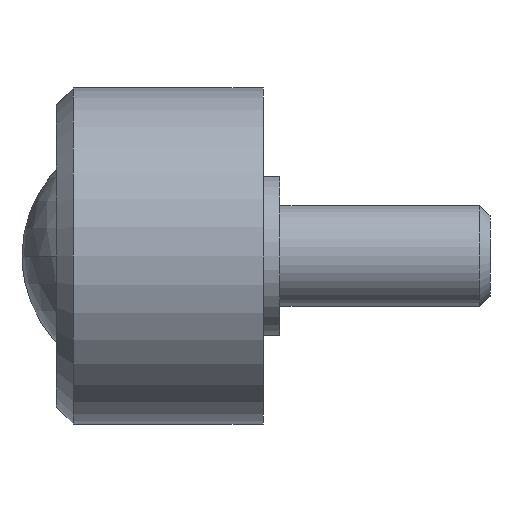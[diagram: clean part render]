
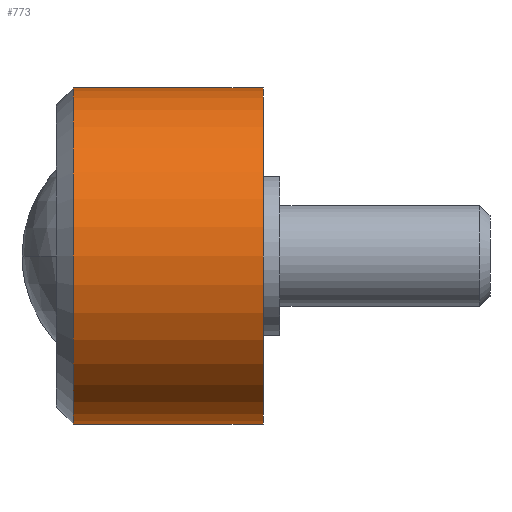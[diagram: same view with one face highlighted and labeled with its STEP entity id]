
A CAD part, left-side view. The second image highlights one B-rep face of the part: STEP entity #773.
In plain terms, the highlighted cylindrical face has radius 20 mm (diameter 40 mm), a partial arc.
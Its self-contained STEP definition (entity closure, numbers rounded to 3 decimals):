
#18 = CARTESIAN_POINT ( 'NONE',  ( 0., 22.6, 20. ) ) ;
#49 = CARTESIAN_POINT ( 'NONE',  ( 0., 0., 20. ) ) ;
#100 = CARTESIAN_POINT ( 'NONE',  ( 0., 0., 20. ) ) ;
#121 = CARTESIAN_POINT ( 'NONE',  ( 0., 22.6, -20. ) ) ;
#132 = EDGE_CURVE ( 'NONE', #546, #309, #749, .T. ) ;
#146 = ORIENTED_EDGE ( 'NONE', *, *, #690, .T. ) ;
#161 = CARTESIAN_POINT ( 'NONE',  ( 0., 22.6, 0. ) ) ;
#184 = VERTEX_POINT ( 'NONE', #121 ) ;
#187 = CARTESIAN_POINT ( 'NONE',  ( 0., 0., -20. ) ) ;
#189 = AXIS2_PLACEMENT_3D ( 'NONE', #655, #730, #308 ) ;
#208 = EDGE_CURVE ( 'NONE', #184, #309, #304, .T. ) ;
#227 = DIRECTION ( 'NONE',  ( 0., -1., 0. ) ) ;
#262 = VERTEX_POINT ( 'NONE', #18 ) ;
#272 = ORIENTED_EDGE ( 'NONE', *, *, #505, .F. ) ;
#292 = CYLINDRICAL_SURFACE ( 'NONE', #626, 20. ) ;
#304 = LINE ( 'NONE', #187, #558 ) ;
#305 = ORIENTED_EDGE ( 'NONE', *, *, #132, .F. ) ;
#308 = DIRECTION ( 'NONE',  ( 0., 0., -1. ) ) ;
#309 = VERTEX_POINT ( 'NONE', #687 ) ;
#357 = DIRECTION ( 'NONE',  ( 0., 0., -1. ) ) ;
#373 = EDGE_LOOP ( 'NONE', ( #272, #146, #554, #305 ) ) ;
#504 = DIRECTION ( 'NONE',  ( 0., 0., 1. ) ) ;
#505 = EDGE_CURVE ( 'NONE', #262, #546, #518, .T. ) ;
#518 = LINE ( 'NONE', #100, #625 ) ;
#528 = DIRECTION ( 'NONE',  ( 0., -1., 0. ) ) ;
#546 = VERTEX_POINT ( 'NONE', #49 ) ;
#554 = ORIENTED_EDGE ( 'NONE', *, *, #208, .T. ) ;
#558 = VECTOR ( 'NONE', #721, 1000. ) ;
#568 = DIRECTION ( 'NONE',  ( 0., -1., 0. ) ) ;
#625 = VECTOR ( 'NONE', #227, 1000. ) ;
#626 = AXIS2_PLACEMENT_3D ( 'NONE', #733, #528, #357 ) ;
#655 = CARTESIAN_POINT ( 'NONE',  ( 0., 0., 0. ) ) ;
#687 = CARTESIAN_POINT ( 'NONE',  ( 0., 0., -20. ) ) ;
#690 = EDGE_CURVE ( 'NONE', #262, #184, #710, .T. ) ;
#710 = CIRCLE ( 'NONE', #722, 20. ) ;
#721 = DIRECTION ( 'NONE',  ( 0., -1., 0. ) ) ;
#722 = AXIS2_PLACEMENT_3D ( 'NONE', #161, #568, #504 ) ;
#730 = DIRECTION ( 'NONE',  ( 0., -1., 0. ) ) ;
#733 = CARTESIAN_POINT ( 'NONE',  ( 0., 0., 0. ) ) ;
#749 = CIRCLE ( 'NONE', #189, 20. ) ;
#773 = ADVANCED_FACE ( 'NONE', ( #779 ), #292, .T. ) ;
#779 = FACE_OUTER_BOUND ( 'NONE', #373, .T. ) ;
